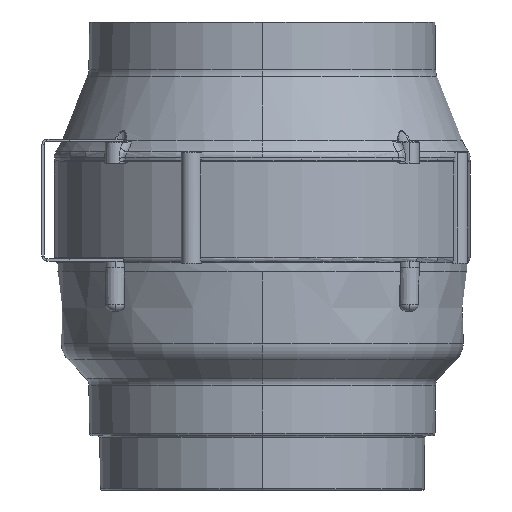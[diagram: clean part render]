
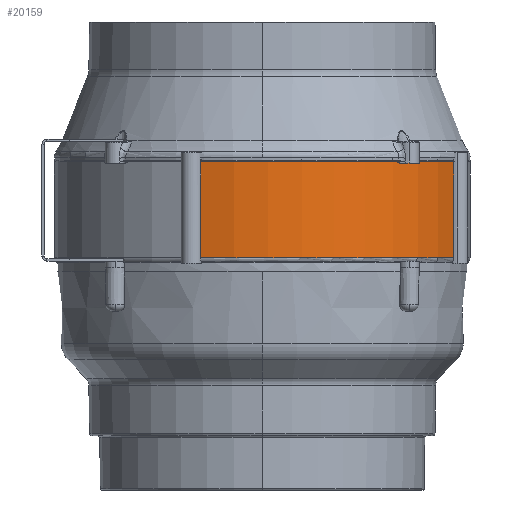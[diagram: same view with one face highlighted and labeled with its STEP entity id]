
A CAD part, left-side view. The second image highlights one B-rep face of the part: STEP entity #20159.
In plain terms, the highlighted cylindrical face has radius 95.5 mm (diameter 191 mm), a partial arc.
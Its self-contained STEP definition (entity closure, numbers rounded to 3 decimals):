
#427 = DIRECTION ( 'NONE',  ( 0., 0., 1. ) ) ;
#433 = CARTESIAN_POINT ( 'NONE',  ( 0., 0., 4.5 ) ) ;
#446 = CARTESIAN_POINT ( 'NONE',  ( 0., 0., 49. ) ) ;
#481 = DIRECTION ( 'NONE',  ( 1., 0., 0. ) ) ;
#597 = DIRECTION ( 'NONE',  ( 1., 0., 0. ) ) ;
#599 = DIRECTION ( 'NONE',  ( 0., 0., 1. ) ) ;
#709 = CARTESIAN_POINT ( 'NONE',  ( -91.225, 28.255, 27.4 ) ) ;
#739 = DIRECTION ( 'NONE',  ( 0., 0., -1. ) ) ;
#983 = LINE ( 'NONE', #709, #985 ) ;
#985 = VECTOR ( 'NONE', #739, 1000. ) ;
#987 = CIRCLE ( 'NONE', #10182, 95.5 ) ;
#1001 = CIRCLE ( 'NONE', #10188, 95.5 ) ;
#2975 = DIRECTION ( 'NONE',  ( 1., 0., 0. ) ) ;
#2977 = DIRECTION ( 'NONE',  ( 0., 0., 1. ) ) ;
#2979 = CARTESIAN_POINT ( 'NONE',  ( 0., 0., 0. ) ) ;
#3452 = VERTEX_POINT ( 'NONE', #8787 ) ;
#4724 = CARTESIAN_POINT ( 'NONE',  ( -91.225, 28.255, 4.5 ) ) ;
#4794 = CARTESIAN_POINT ( 'NONE',  ( -91.225, 28.255, 49. ) ) ;
#5092 = CARTESIAN_POINT ( 'NONE',  ( -36.994, -88.044, 49. ) ) ;
#5518 = EDGE_CURVE ( 'NONE', #11759, #11724, #983, .T. ) ;
#5522 = EDGE_CURVE ( 'NONE', #11724, #3452, #987, .T. ) ;
#5541 = EDGE_CURVE ( 'NONE', #11759, #11796, #1001, .T. ) ;
#6696 = AXIS2_PLACEMENT_3D ( 'NONE', #2979, #2977, #2975 ) ;
#7496 = LINE ( 'NONE', #10391, #7497 ) ;
#7497 = VECTOR ( 'NONE', #10384, 1000. ) ;
#8787 = CARTESIAN_POINT ( 'NONE',  ( -36.994, -88.044, 4.5 ) ) ;
#10182 = AXIS2_PLACEMENT_3D ( 'NONE', #433, #427, #481 ) ;
#10188 = AXIS2_PLACEMENT_3D ( 'NONE', #446, #599, #597 ) ;
#10384 = DIRECTION ( 'NONE',  ( 0., 0., 1. ) ) ;
#10391 = CARTESIAN_POINT ( 'NONE',  ( -36.994, -88.044, 27.4 ) ) ;
#11724 = VERTEX_POINT ( 'NONE', #4724 ) ;
#11759 = VERTEX_POINT ( 'NONE', #4794 ) ;
#11796 = VERTEX_POINT ( 'NONE', #5092 ) ;
#16108 = EDGE_CURVE ( 'NONE', #3452, #11796, #7496, .T. ) ;
#17453 = EDGE_LOOP ( 'NONE', ( #20364, #20811, #20363, #20360 ) ) ;
#18438 = FACE_OUTER_BOUND ( 'NONE', #17453, .T. ) ;
#18440 = CYLINDRICAL_SURFACE ( 'NONE', #6696, 95.5 ) ;
#20159 = ADVANCED_FACE ( 'NONE', ( #18438 ), #18440, .T. ) ;
#20360 = ORIENTED_EDGE ( 'NONE', *, *, #5518, .T. ) ;
#20363 = ORIENTED_EDGE ( 'NONE', *, *, #5541, .F. ) ;
#20364 = ORIENTED_EDGE ( 'NONE', *, *, #5522, .T. ) ;
#20811 = ORIENTED_EDGE ( 'NONE', *, *, #16108, .T. ) ;
